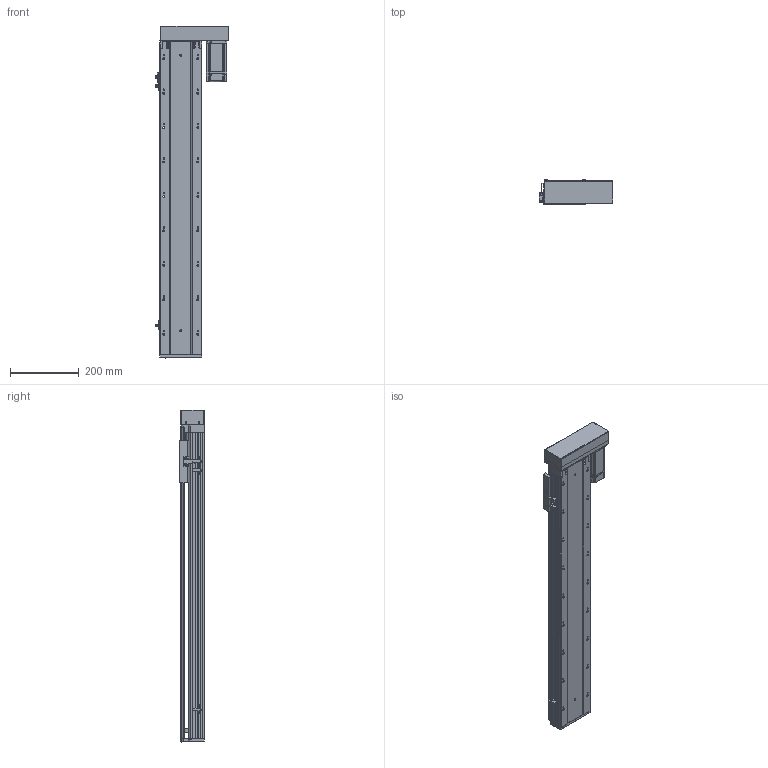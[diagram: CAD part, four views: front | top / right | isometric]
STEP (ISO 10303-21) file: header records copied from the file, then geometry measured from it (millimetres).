
FILE_DESCRIPTION (( 'STEP AP203' ), '1' );
FILE_NAME ('RY120-L1620-300-RK.SLDASM_700.step', '2021-02-22T02:30:09', ( '盈信电脑' ), ( '东莞市道滘镇水果街19号' ), 'SwSTEP 2.0', 'SolidWorks 2012', '' );
FILE_SCHEMA (( 'CONFIG_CONTROL_DESIGN' ));
Products named in the file (14): RY120蛌殏萇儂欶; RY120-L1620-300-RK.SLDASM_700; 侂狟400W侜督萇儂; RY120酘殏萇儂假蚾啣; 15; RY120转拆电端丝杆支撑座; RY120外置感应片(140共用）; 滅袉蝶18-10; 滅袉蝶18-24; RY120綴裔啣; RY120-300-RK蛌殏倰第奻裔啣_700; RY120臏賑輸; 覜茼ん672; RY120-300-RK蛌殏倰第菁釱_700
Assembly tree (16 placements, depth 3):
  RY120-L1620-300-RK.SLDASM_700
    RY120-300-RK蛌殏倰第菁釱_700
    RY120-300-RK蛌殏倰第奻裔啣_700
    RY120臏賑輸
    RY120綴裔啣
    覜茼ん672  x3
    滅袉蝶18-10
    滅袉蝶18-24  x2
    RY120外置感应片(140共用）
    RY120转拆电端丝杆支撑座
    RY120酘殏萇儂假蚾啣
    侂狟400W侜督萇儂
      15
    RY120蛌殏萇儂欶
Bounding box: 214.4 x 73 x 964 mm (x, y, z)
Volume: 2928129.7 mm3; surface area: 1055850.7 mm2
Topology: 16 solids, 16 shells, 2508 faces, 6919 edges, 4436 vertices
Faces by surface type: plane 1236, cylinder 952, cone 215, bspline 105
Entity records: 83638 total; most frequent: CARTESIAN_POINT 23861, ORIENTED_EDGE 12542, DIRECTION 11499, EDGE_CURVE 6271, VERTEX_POINT 4104, LINE 3837, VECTOR 3837, AXIS2_PLACEMENT_3D 3831
